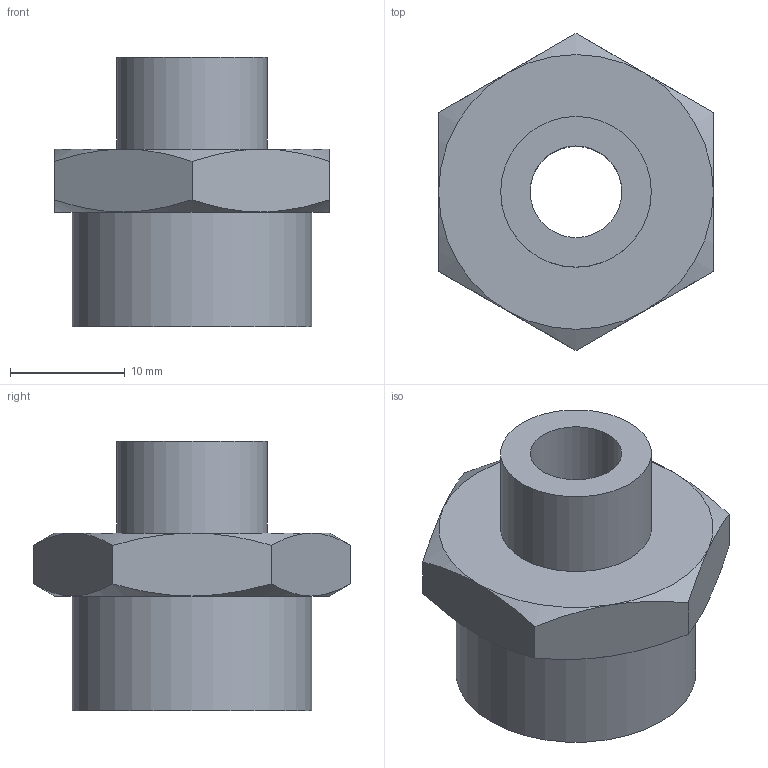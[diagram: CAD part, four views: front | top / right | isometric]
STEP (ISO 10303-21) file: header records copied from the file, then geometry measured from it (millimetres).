
FILE_DESCRIPTION(/* description */ (''),/* implementation_level */ '2;1');
FILE_NAME(/* name */ 'C:\PNX_VAULTFOLDER\Area Tecnica\Disegni\VARIE-3D\Componenti\raccordi\101####\1011412.stp',/* time_stamp */ '2019-09-13T10:22:42+02:00',/* author */ ('maniean1'),/* organization */ ('Pneumax S.p.A.'),/* preprocessor_version */ 'ST-DEVELOPER v17',/* originating_system */ 'Autodesk Inventor 2019',/* authorisation */ '');
FILE_SCHEMA (('AUTOMOTIVE_DESIGN { 1 0 10303 214 3 1 1 }'));
Length unit declared in the file: millimetre
Products named in the file (1): 1011412
Bounding box: 24 x 27.71 x 23.5 mm (x, y, z)
Volume: 6068.8 mm3; surface area: 2887.2 mm2
Topology: 1 solids, 1 shells, 25 faces, 56 edges, 35 vertices
Faces by surface type: cone 12, plane 10, cylinder 3
Full cylindrical faces by diameter (mm): 8 x1, 13.157 x1, 20.955 x1
Entity records: 741 total; most frequent: CARTESIAN_POINT 165, ORIENTED_EDGE 112, DIRECTION 107, EDGE_CURVE 56, AXIS2_PLACEMENT_3D 49, VERTEX_POINT 35, EDGE_LOOP 29, STYLED_ITEM 26
